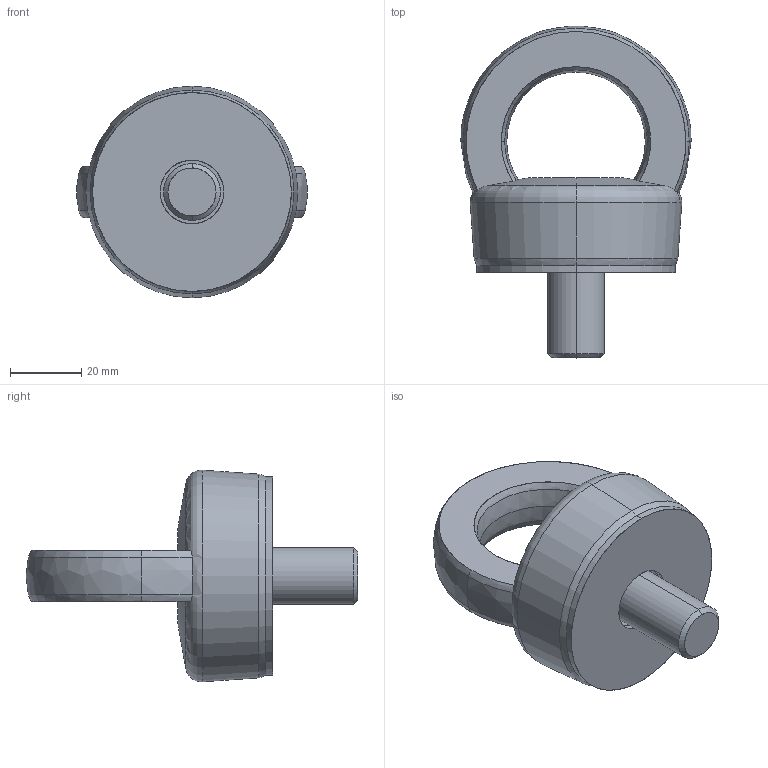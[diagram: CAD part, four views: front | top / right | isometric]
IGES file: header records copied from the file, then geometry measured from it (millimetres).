
Start section: START RECORD GO HERE.
Global section: file name: C817X16.igs; native system: DASSAULT SYSTEMES CATIA V5 R20 - www.3ds.com; preprocessor: CATIA Version 5 Release 20 ; author: r.borello; organization: CFTORINO; date: 20190701.090259; units: millimetre
Bounding box: 64.86 x 93.5 x 59.6 mm (x, y, z)
Surface area: 19183.4 mm2 (no closed solid volume)
Topology: 0 solids, 0 shells, 60 faces, 278 edges, 278 vertices
Faces by surface type: revolution 45, extrusion 15
